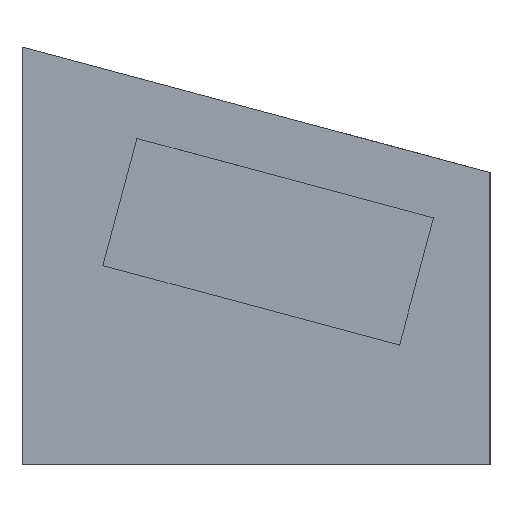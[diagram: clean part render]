
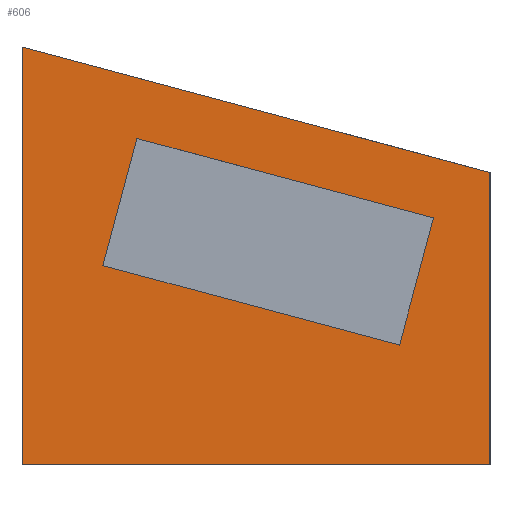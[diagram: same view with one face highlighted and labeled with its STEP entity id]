
A CAD part, left-side view. The second image highlights one B-rep face of the part: STEP entity #606.
In plain terms, the highlighted planar face has unit normal (-1, 0, 0).
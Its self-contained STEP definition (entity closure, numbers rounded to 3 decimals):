
#2 = VERTEX_POINT ( 'NONE', #593 ) ;
#4 = ORIENTED_EDGE ( 'NONE', *, *, #245, .F. ) ;
#23 = CARTESIAN_POINT ( 'NONE',  ( 0., 16., 0. ) ) ;
#28 = VERTEX_POINT ( 'NONE', #608 ) ;
#30 = CARTESIAN_POINT ( 'NONE',  ( 0., 0., 0. ) ) ;
#50 = ORIENTED_EDGE ( 'NONE', *, *, #147, .T. ) ;
#56 = DIRECTION ( 'NONE',  ( 0., 1., 0. ) ) ;
#70 = EDGE_LOOP ( 'NONE', ( #4, #418, #674, #550 ) ) ;
#78 = LINE ( 'NONE', #113, #105 ) ;
#84 = DIRECTION ( 'NONE',  ( 0., 0.966, 0.259 ) ) ;
#88 = CARTESIAN_POINT ( 'NONE',  ( 0., 13.236, 6.817 ) ) ;
#104 = VECTOR ( 'NONE', #188, 1000. ) ;
#105 = VECTOR ( 'NONE', #615, 1000. ) ;
#106 = CARTESIAN_POINT ( 'NONE',  ( 0., 0., 7.144 ) ) ;
#110 = AXIS2_PLACEMENT_3D ( 'NONE', #156, #303, #230 ) ;
#113 = CARTESIAN_POINT ( 'NONE',  ( 0., 16., 0. ) ) ;
#137 = EDGE_CURVE ( 'NONE', #614, #803, #174, .T. ) ;
#138 = CARTESIAN_POINT ( 'NONE',  ( 0., 3.094, 4.1 ) ) ;
#147 = EDGE_CURVE ( 'NONE', #477, #2, #788, .T. ) ;
#156 = CARTESIAN_POINT ( 'NONE',  ( 0., 8., 7.144 ) ) ;
#172 = VECTOR ( 'NONE', #773, 1000. ) ;
#174 = LINE ( 'NONE', #106, #657 ) ;
#188 = DIRECTION ( 'NONE',  ( 0., -0.966, -0.259 ) ) ;
#211 = CARTESIAN_POINT ( 'NONE',  ( 0., 13.236, 6.817 ) ) ;
#230 = DIRECTION ( 'NONE',  ( 0., 0., -1. ) ) ;
#245 = EDGE_CURVE ( 'NONE', #476, #251, #78, .T. ) ;
#249 = LINE ( 'NONE', #369, #445 ) ;
#251 = VERTEX_POINT ( 'NONE', #680 ) ;
#272 = EDGE_CURVE ( 'NONE', #803, #476, #249, .T. ) ;
#273 = LINE ( 'NONE', #518, #104 ) ;
#295 = DIRECTION ( 'NONE',  ( 0., 0., -1. ) ) ;
#303 = DIRECTION ( 'NONE',  ( 1., 0., 0. ) ) ;
#331 = CARTESIAN_POINT ( 'NONE',  ( 0., 12.071, 11.164 ) ) ;
#352 = EDGE_CURVE ( 'NONE', #2, #28, #566, .T. ) ;
#361 = ORIENTED_EDGE ( 'NONE', *, *, #471, .T. ) ;
#369 = CARTESIAN_POINT ( 'NONE',  ( 0., 0., 0. ) ) ;
#385 = EDGE_LOOP ( 'NONE', ( #770, #361, #447, #50 ) ) ;
#395 = CARTESIAN_POINT ( 'NONE',  ( 0., 1.929, 8.446 ) ) ;
#415 = CARTESIAN_POINT ( 'NONE',  ( 0., 12.071, 11.164 ) ) ;
#418 = ORIENTED_EDGE ( 'NONE', *, *, #272, .F. ) ;
#422 = DIRECTION ( 'NONE',  ( 0., -0.966, -0.259 ) ) ;
#445 = VECTOR ( 'NONE', #56, 1000. ) ;
#447 = ORIENTED_EDGE ( 'NONE', *, *, #766, .T. ) ;
#459 = DIRECTION ( 'NONE',  ( 0., 0.259, -0.966 ) ) ;
#462 = FACE_OUTER_BOUND ( 'NONE', #70, .T. ) ;
#471 = EDGE_CURVE ( 'NONE', #28, #508, #522, .T. ) ;
#476 = VERTEX_POINT ( 'NONE', #23 ) ;
#477 = VERTEX_POINT ( 'NONE', #331 ) ;
#508 = VERTEX_POINT ( 'NONE', #211 ) ;
#518 = CARTESIAN_POINT ( 'NONE',  ( 0., 16., 14.287 ) ) ;
#522 = LINE ( 'NONE', #138, #682 ) ;
#550 = ORIENTED_EDGE ( 'NONE', *, *, #666, .F. ) ;
#566 = LINE ( 'NONE', #395, #683 ) ;
#571 = LINE ( 'NONE', #88, #172 ) ;
#582 = VECTOR ( 'NONE', #422, 1000. ) ;
#593 = CARTESIAN_POINT ( 'NONE',  ( 0., 1.929, 8.446 ) ) ;
#606 = ADVANCED_FACE ( 'NONE', ( #620, #462 ), #790, .F. ) ;
#608 = CARTESIAN_POINT ( 'NONE',  ( 0., 3.094, 4.1 ) ) ;
#614 = VERTEX_POINT ( 'NONE', #668 ) ;
#615 = DIRECTION ( 'NONE',  ( 0., 0., 1. ) ) ;
#620 = FACE_BOUND ( 'NONE', #385, .T. ) ;
#657 = VECTOR ( 'NONE', #295, 1000. ) ;
#666 = EDGE_CURVE ( 'NONE', #251, #614, #273, .T. ) ;
#668 = CARTESIAN_POINT ( 'NONE',  ( 0., 0., 10. ) ) ;
#674 = ORIENTED_EDGE ( 'NONE', *, *, #137, .F. ) ;
#680 = CARTESIAN_POINT ( 'NONE',  ( 0., 16., 14.287 ) ) ;
#682 = VECTOR ( 'NONE', #84, 1000. ) ;
#683 = VECTOR ( 'NONE', #459, 1000. ) ;
#766 = EDGE_CURVE ( 'NONE', #508, #477, #571, .T. ) ;
#770 = ORIENTED_EDGE ( 'NONE', *, *, #352, .T. ) ;
#773 = DIRECTION ( 'NONE',  ( 0., -0.259, 0.966 ) ) ;
#788 = LINE ( 'NONE', #415, #582 ) ;
#790 = PLANE ( 'NONE',  #110 ) ;
#803 = VERTEX_POINT ( 'NONE', #30 ) ;
